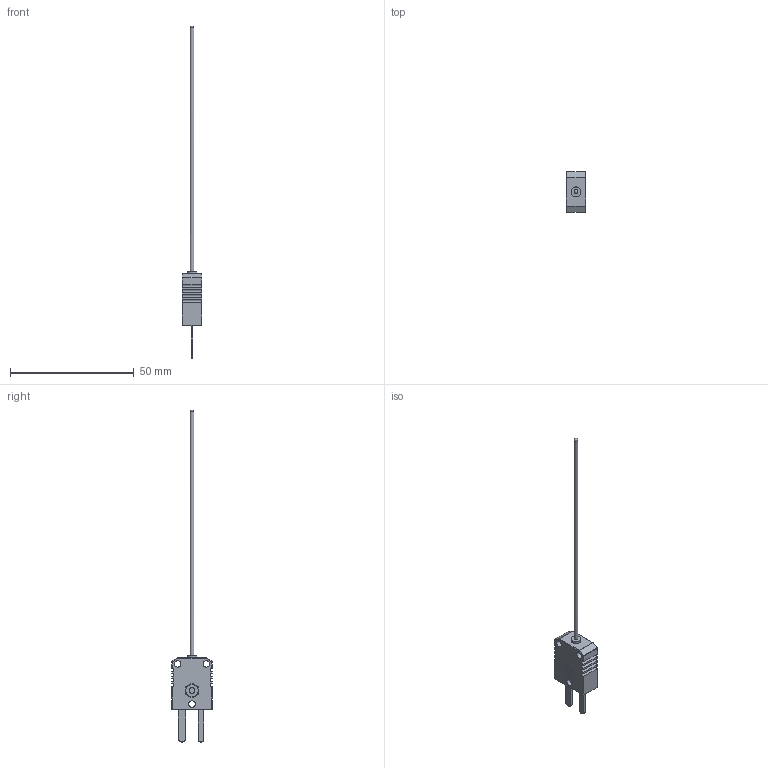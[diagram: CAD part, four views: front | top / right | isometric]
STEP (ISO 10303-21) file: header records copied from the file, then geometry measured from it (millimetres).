
FILE_DESCRIPTION (( 'STEP AP203' ), '1' );
FILE_NAME ('YIT70S-2(0).STEP', '2025-07-30T05:25:42', ( '' ), ( '' ), 'SwSTEP 2.0', 'SolidWorks 2024', '' );
FILE_SCHEMA (( 'CONFIG_CONTROL_DESIGN' ));
Length unit declared in the file: millimetre
Products named in the file (1): YIT70S-2(0)
Bounding box: 8 x 16.5 x 133.99 mm (x, y, z)
Volume: 2793.2 mm3; surface area: 2239.9 mm2
Topology: 1 solids, 1 shells, 136 faces, 347 edges, 214 vertices
Faces by surface type: plane 62, cylinder 55, sphere 13, cone 6
Full cylindrical faces by diameter (mm): 1.6 x1, 2.4 x1, 2.6 x3, 3 x2, 4 x1, 5.5 x1
Entity records: 4123 total; most frequent: CARTESIAN_POINT 889, ORIENTED_EDGE 646, DIRECTION 640, EDGE_CURVE 323, AXIS2_PLACEMENT_3D 224, VERTEX_POINT 209, VECTOR 192, LINE 192
